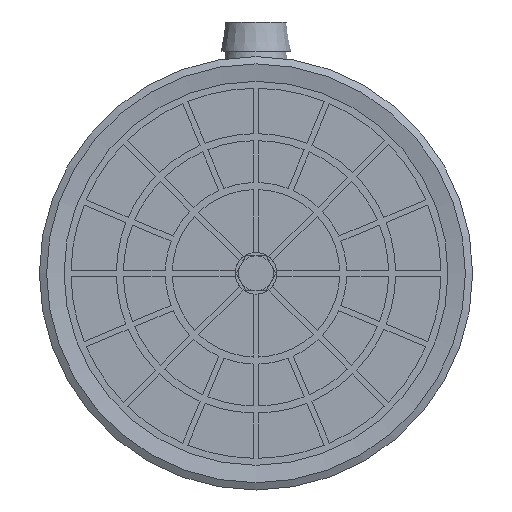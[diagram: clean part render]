
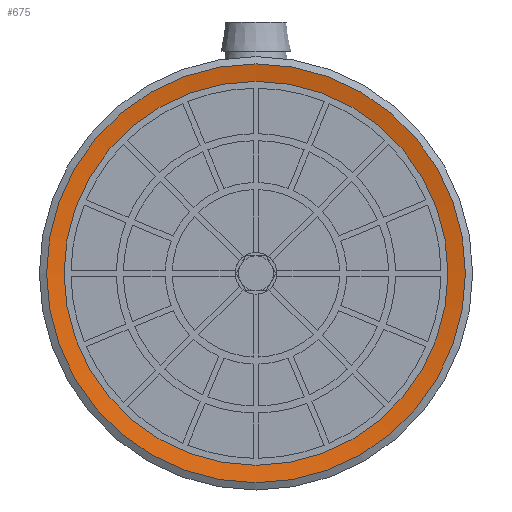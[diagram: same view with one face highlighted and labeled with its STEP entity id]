
A CAD part, front view. The second image highlights one B-rep face of the part: STEP entity #675.
In plain terms, the highlighted conical face has half-angle 80 degrees and reference radius 15 mm.
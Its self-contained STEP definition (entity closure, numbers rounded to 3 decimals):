
#675=ADVANCED_FACE('',(#1298,#1299),#1300,.F.);
#1298=FACE_BOUND('',#2142,.T.);
#1299=FACE_OUTER_BOUND('',#2143,.T.);
#1300=CONICAL_SURFACE('',#2144,15.0,1.396);
#2142=EDGE_LOOP('',(#3850));
#2143=EDGE_LOOP('',(#3851));
#2144=AXIS2_PLACEMENT_3D('',#3852,#3853,#3854);
#3850=ORIENTED_EDGE('',*,*,#5776,.T.);
#3851=ORIENTED_EDGE('',*,*,#5777,.F.);
#3852=CARTESIAN_POINT('',(0.0,0.,0.));
#3853=DIRECTION('',(0.0,0.,-1.0));
#3854=DIRECTION('',(0.0,1.0,0.));
#5776=EDGE_CURVE('',#6959,#6959,#6960,.T.);
#5777=EDGE_CURVE('',#6961,#6961,#6962,.T.);
#6959=VERTEX_POINT('',#8978);
#6960=CIRCLE('',#8979,13.75);
#6961=VERTEX_POINT('',#8980);
#6962=CIRCLE('',#8981,15.0);
#8978=CARTESIAN_POINT('',(0.0,-13.75,0.22));
#8979=AXIS2_PLACEMENT_3D('',#10491,#10492,#10493);
#8980=CARTESIAN_POINT('',(0.0,-15.0,0.));
#8981=AXIS2_PLACEMENT_3D('',#10494,#10495,#10496);
#10491=CARTESIAN_POINT('',(0.0,0.,0.22));
#10492=DIRECTION('',(0.0,0.,1.0));
#10493=DIRECTION('',(0.0,-1.0,0.));
#10494=CARTESIAN_POINT('',(0.0,0.,0.));
#10495=DIRECTION('',(0.0,0.,1.0));
#10496=DIRECTION('',(0.0,-1.0,0.));
